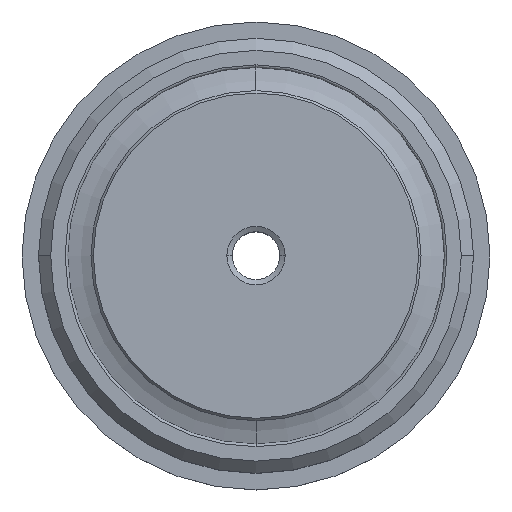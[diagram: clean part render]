
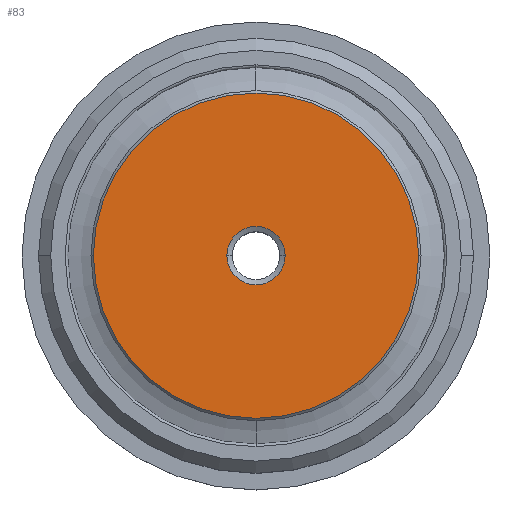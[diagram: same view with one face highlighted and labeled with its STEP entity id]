
A CAD part, top view. The second image highlights one B-rep face of the part: STEP entity #83.
In plain terms, the highlighted planar face has unit normal (0, 0, 1).
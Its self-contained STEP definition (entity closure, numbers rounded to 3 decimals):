
#83=ADVANCED_FACE('',(#172,#173),#174,.T.);
#172=FACE_OUTER_BOUND('',#270,.T.);
#173=FACE_BOUND('',#271,.T.);
#174=PLANE('',#272);
#270=EDGE_LOOP('',(#577,#578));
#271=EDGE_LOOP('',(#579,#580));
#272=AXIS2_PLACEMENT_3D('',#581,#582,#583);
#577=ORIENTED_EDGE('',*,*,#687,.F.);
#578=ORIENTED_EDGE('',*,*,#756,.F.);
#579=ORIENTED_EDGE('',*,*,#755,.T.);
#580=ORIENTED_EDGE('',*,*,#690,.T.);
#581=CARTESIAN_POINT('',(9.875,0.0,21.0));
#582=DIRECTION('',(0.0,0.,1.0));
#583=DIRECTION('',(-1.0,0.0,0.0));
#687=EDGE_CURVE('',#828,#830,#831,.T.);
#690=EDGE_CURVE('',#836,#833,#837,.T.);
#755=EDGE_CURVE('',#833,#836,#939,.T.);
#756=EDGE_CURVE('',#830,#828,#940,.T.);
#828=VERTEX_POINT('',#1020);
#830=VERTEX_POINT('',#1023);
#831=CIRCLE('',#1024,16.75);
#833=VERTEX_POINT('',#1027);
#836=VERTEX_POINT('',#1031);
#837=CIRCLE('',#1032,3.0);
#939=CIRCLE('',#1149,3.0);
#940=CIRCLE('',#1150,16.75);
#1020=CARTESIAN_POINT('',(16.75,0.0,21.0));
#1023=CARTESIAN_POINT('',(-16.75,0.,21.0));
#1024=AXIS2_PLACEMENT_3D('',#1247,#1248,#1249);
#1027=CARTESIAN_POINT('',(3.0,0.0,21.0));
#1031=CARTESIAN_POINT('',(-3.0,0.,21.0));
#1032=AXIS2_PLACEMENT_3D('',#1252,#1253,#1254);
#1149=AXIS2_PLACEMENT_3D('',#1417,#1418,#1419);
#1150=AXIS2_PLACEMENT_3D('',#1420,#1421,#1422);
#1247=CARTESIAN_POINT('',(0.0,0.0,21.0));
#1248=DIRECTION('',(0.0,0.,-1.0));
#1249=DIRECTION('',(1.0,0.0,0.0));
#1252=CARTESIAN_POINT('',(0.0,0.0,21.0));
#1253=DIRECTION('',(0.0,0.,-1.0));
#1254=DIRECTION('',(1.0,0.0,0.0));
#1417=CARTESIAN_POINT('',(0.0,0.0,21.0));
#1418=DIRECTION('',(0.0,0.,-1.0));
#1419=DIRECTION('',(1.0,0.0,0.0));
#1420=CARTESIAN_POINT('',(0.0,0.0,21.0));
#1421=DIRECTION('',(0.0,0.,-1.0));
#1422=DIRECTION('',(1.0,0.0,0.0));
